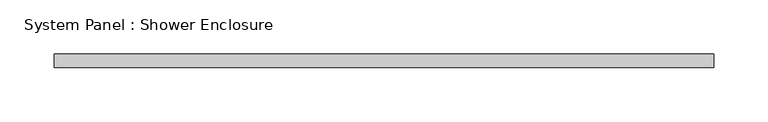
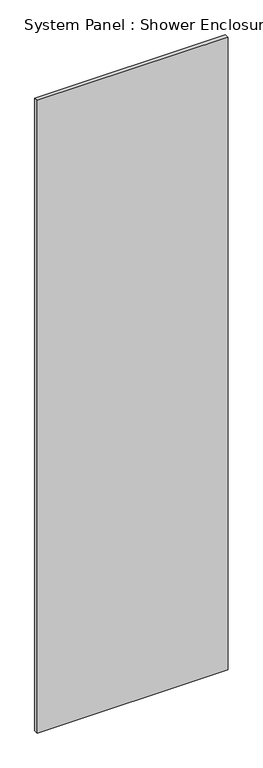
"""IFC4 building model written with IfcOpenShell, lengths in millimetres: plate geometry, System Panel : Shower Enclosure."""

from ifc_helpers import new_model, si_unit, origin, origin_with_axes, place, context, project, spatial, polyline, outline, extrude, source, transform, mapped, element, save


def system_panel_shower_enclosure_00ead15c(model_context):
    return source(origin(), model_context, "Body", "SweptSolid", [
        extrude(outline(polyline([(304.8, 0.0), (-304.8, 0.0), (-304.8, 12.7), (304.8, 12.7), (304.8, 0.0)])), origin_with_axes(), (0.0, 0.0, 1.0), 2133.6),
    ])


if __name__ == "__main__":
    model = new_model("IFC4")
    model_context = context("Model", 3, world=origin())
    ifc_project = project(units=[si_unit("LENGTHUNIT", "METRE", prefix="MILLI")], contexts=[model_context])
    site = spatial("IfcSite", under=ifc_project)
    building = spatial("IfcBuilding", under=site)
    placement = place(None, origin())
    system_panel_shower_enclosure_shape = system_panel_shower_enclosure_00ead15c(model_context)
    element("IfcPlate", 1, ObjectType="System Panel : Shower Enclosure", at=placement, inside=building, context=model_context, shape_type="MappedRepresentation", body=[
        mapped(system_panel_shower_enclosure_shape, transform((0.0, 0.0, 0.0), x_axis=(1.0, 0.0, 0.0), y_axis=(0.0, 1.0, 0.0), z_axis=(0.0, 0.0, 1.0))),
    ])
    save(model, "model.ifc")
